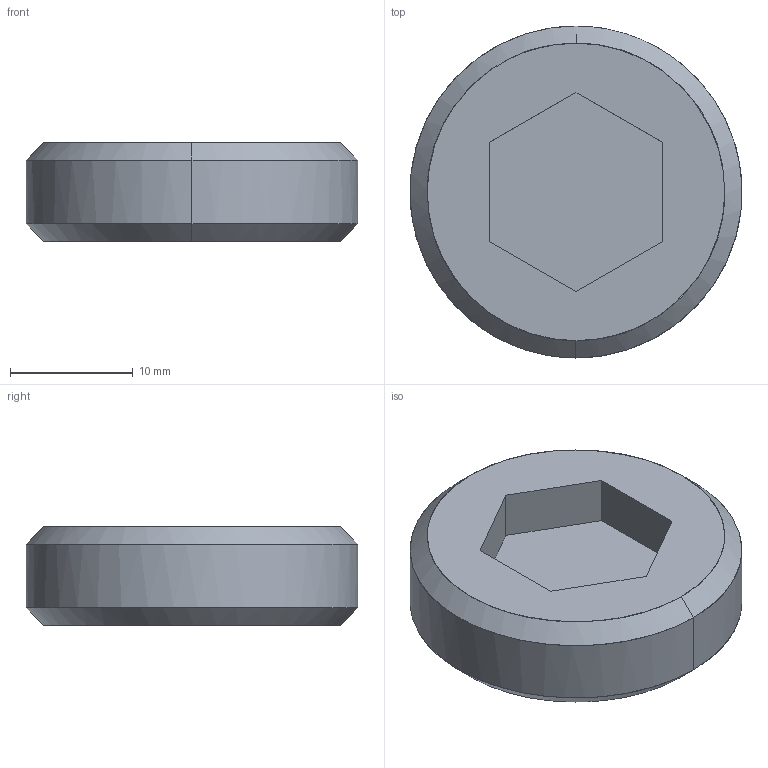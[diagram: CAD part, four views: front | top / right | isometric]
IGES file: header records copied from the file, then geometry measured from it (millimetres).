
Global section: file name: E:\UnigraphicsGraphicData\MISUMI_PRESS-PARTS\IGES\3d_msws27-8_00526_r00.igs; native system: NX V5.0; preprocessor: UGS NX IGES V5.0; author: MISUMI; date: 20110105.161525; units: millimetre
Bounding box: 26.99 x 27 x 8 mm (x, y, z)
Surface area: 1876.5 mm2 (no closed solid volume)
Topology: 0 solids, 0 shells, 15 faces, 76 edges, 76 vertices
Faces by surface type: bspline 15
